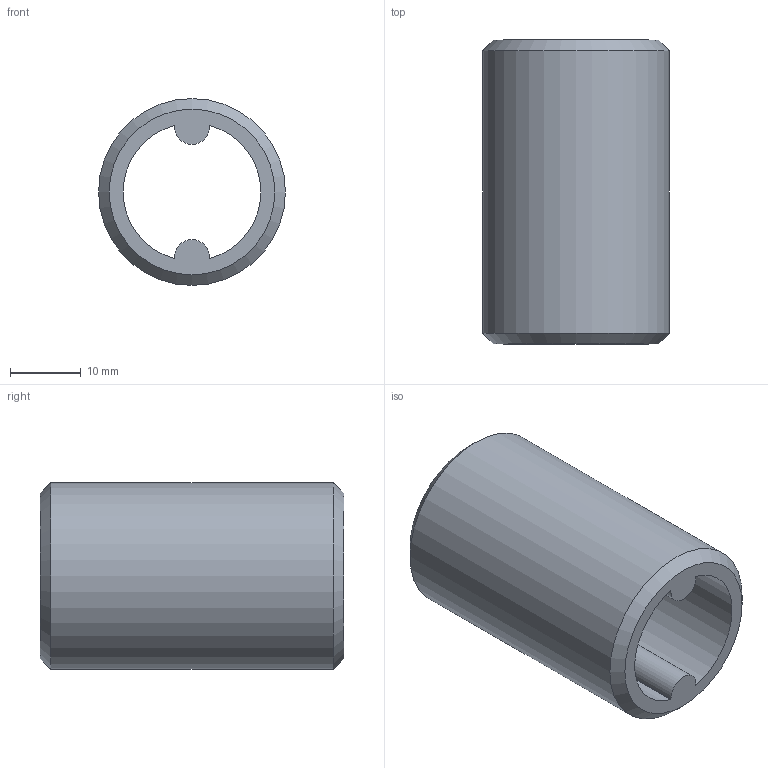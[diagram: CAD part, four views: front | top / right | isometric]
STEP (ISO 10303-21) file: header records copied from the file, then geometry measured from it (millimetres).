
FILE_DESCRIPTION(('STEP AP203'), '1');
FILE_NAME('ÂÐ.715291.002 - VTr.651.N.0005 Íèïïåëü', '2024-08-02T10:49:57', ('Boss'), (''), 'C3D Converter', 'C3D Toolkit', '');
FILE_SCHEMA(('CONFIG_CONTROL_DESIGN'));
Length unit declared in the file: millimetre
Products named in the file (1): ВР.715291.002
Bounding box: 26.44 x 43 x 26.44 mm (x, y, z)
Volume: 11602.2 mm3; surface area: 6872.8 mm2
Topology: 1 solids, 1 shells, 13 faces, 31 edges, 20 vertices
Faces by surface type: plane 6, cylinder 5, cone 2
Full cylindrical faces by diameter (mm): 26.441 x1
Entity records: 401 total; most frequent: DIRECTION 68, CARTESIAN_POINT 62, ORIENTED_EDGE 56, EDGE_CURVE 28, AXIS2_PLACEMENT_3D 26, VERTEX_POINT 20, EDGE_LOOP 18, LINE 16
